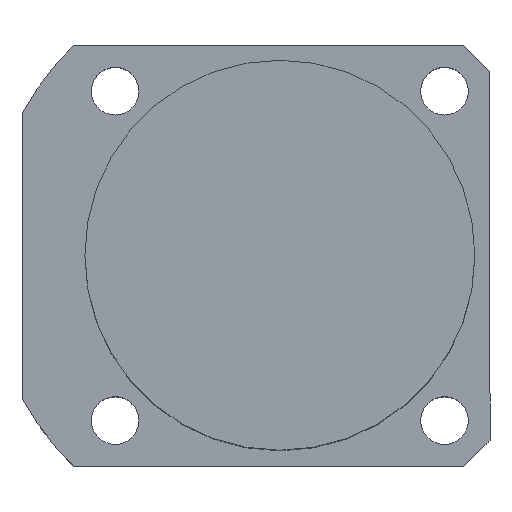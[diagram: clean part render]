
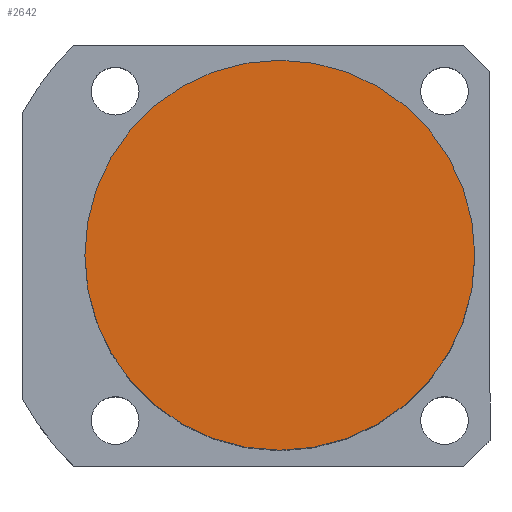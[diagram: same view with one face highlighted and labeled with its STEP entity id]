
A CAD part, top view. The second image highlights one B-rep face of the part: STEP entity #2642.
In plain terms, the highlighted planar face has unit normal (0, 0, 1).
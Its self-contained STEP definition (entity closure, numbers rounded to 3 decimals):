
#239 = CARTESIAN_POINT ( 'NONE',  ( -45., 0., 99.5 ) ) ;
#278 = AXIS2_PLACEMENT_3D ( 'NONE', #5358, #7020, #3735 ) ;
#283 = CIRCLE ( 'NONE', #2204, 45. ) ;
#1099 = VERTEX_POINT ( 'NONE', #239 ) ;
#1208 = DIRECTION ( 'NONE',  ( 0., 0., 1. ) ) ;
#1333 = CIRCLE ( 'NONE', #5071, 45. ) ;
#1442 = ORIENTED_EDGE ( 'NONE', *, *, #1708, .T. ) ;
#1528 = CARTESIAN_POINT ( 'NONE',  ( 0., 0., 99.5 ) ) ;
#1708 = EDGE_CURVE ( 'NONE', #1099, #2784, #1333, .T. ) ;
#2054 = DIRECTION ( 'NONE',  ( 1., 0., 0. ) ) ;
#2204 = AXIS2_PLACEMENT_3D ( 'NONE', #4490, #1208, #5024 ) ;
#2642 = ADVANCED_FACE ( 'NONE', ( #6804 ), #3170, .T. ) ;
#2784 = VERTEX_POINT ( 'NONE', #6118 ) ;
#3170 = PLANE ( 'NONE',  #278 ) ;
#3735 = DIRECTION ( 'NONE',  ( 1., 0., 0. ) ) ;
#4490 = CARTESIAN_POINT ( 'NONE',  ( 0., 0., 99.5 ) ) ;
#4818 = EDGE_LOOP ( 'NONE', ( #1442, #5550 ) ) ;
#5024 = DIRECTION ( 'NONE',  ( 1., 0., 0. ) ) ;
#5071 = AXIS2_PLACEMENT_3D ( 'NONE', #1528, #5350, #2054 ) ;
#5350 = DIRECTION ( 'NONE',  ( 0., 0., 1. ) ) ;
#5358 = CARTESIAN_POINT ( 'NONE',  ( 0., 0., 99.5 ) ) ;
#5550 = ORIENTED_EDGE ( 'NONE', *, *, #6250, .T. ) ;
#6118 = CARTESIAN_POINT ( 'NONE',  ( 45., 0., 99.5 ) ) ;
#6250 = EDGE_CURVE ( 'NONE', #2784, #1099, #283, .T. ) ;
#6804 = FACE_OUTER_BOUND ( 'NONE', #4818, .T. ) ;
#7020 = DIRECTION ( 'NONE',  ( 0., 0., 1. ) ) ;
